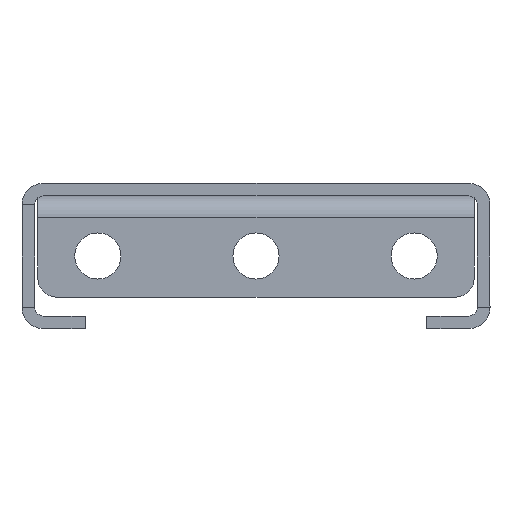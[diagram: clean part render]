
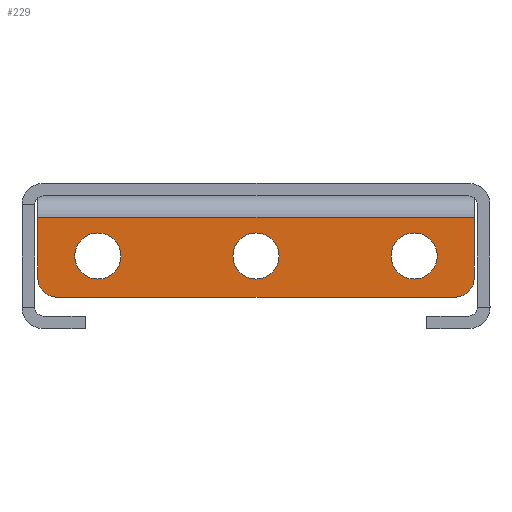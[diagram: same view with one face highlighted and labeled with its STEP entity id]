
A CAD part, left-side view. The second image highlights one B-rep face of the part: STEP entity #229.
In plain terms, the highlighted planar face has unit normal (-1, 0, 0).
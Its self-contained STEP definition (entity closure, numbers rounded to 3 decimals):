
#229=ADVANCED_FACE('',(#1632,#1634,#1636,#1638),#1640,.T.);
#1632=FACE_BOUND('',#1633,.T.);
#1633=EDGE_LOOP('',(#2697,#2698,#2699,#2700,#2701,#2702));
#1634=FACE_BOUND('',#1635,.T.);
#1635=EDGE_LOOP('',(#2703));
#1636=FACE_BOUND('',#1637,.T.);
#1637=EDGE_LOOP('',(#2704));
#1638=FACE_BOUND('',#1639,.T.);
#1639=EDGE_LOOP('',(#2705));
#1640=PLANE('',#1641);
#1641=AXIS2_PLACEMENT_3D('',#1642,#1643,#1644);
#1642=CARTESIAN_POINT('',(-68.5,0.,-2.));
#1643=DIRECTION('',(-1.,0.,0.));
#1644=DIRECTION('',(0.,0.,-1.));
#2697=ORIENTED_EDGE('',*,*,#3246,.F.);
#2698=ORIENTED_EDGE('',*,*,#3250,.T.);
#2699=ORIENTED_EDGE('',*,*,#3251,.F.);
#2700=ORIENTED_EDGE('',*,*,#3252,.T.);
#2701=ORIENTED_EDGE('',*,*,#3247,.F.);
#2702=ORIENTED_EDGE('',*,*,#3242,.T.);
#2703=ORIENTED_EDGE('',*,*,#3207,.F.);
#2704=ORIENTED_EDGE('',*,*,#3209,.F.);
#2705=ORIENTED_EDGE('',*,*,#3211,.F.);
#3207=EDGE_CURVE('',#3939,#3939,#3940,.T.);
#3209=EDGE_CURVE('',#3943,#3943,#3944,.T.);
#3211=EDGE_CURVE('',#3947,#3947,#3948,.T.);
#3242=EDGE_CURVE('',#3992,#3998,#4001,.T.);
#3246=EDGE_CURVE('',#4005,#3998,#4007,.T.);
#3247=EDGE_CURVE('',#3992,#4008,#4009,.T.);
#3250=EDGE_CURVE('',#4005,#4013,#4014,.T.);
#3251=EDGE_CURVE('',#4015,#4013,#4016,.T.);
#3252=EDGE_CURVE('',#4015,#4008,#4017,.T.);
#3939=VERTEX_POINT('',#5555);
#3940=CIRCLE('',#5556,3.65);
#3943=VERTEX_POINT('',#5565);
#3944=CIRCLE('',#5566,3.65);
#3947=VERTEX_POINT('',#5575);
#3948=CIRCLE('',#5576,3.65);
#3992=VERTEX_POINT('',#5681);
#3998=VERTEX_POINT('',#5698);
#4001=LINE('',#5706,#5707);
#4005=VERTEX_POINT('',#5716);
#4007=LINE('',#5720,#5721);
#4008=VERTEX_POINT('',#5723);
#4009=LINE('',#5724,#5725);
#4013=VERTEX_POINT('',#5734);
#4014=CIRCLE('',#5735,3.);
#4015=VERTEX_POINT('',#5739);
#4016=LINE('',#5740,#5741);
#4017=CIRCLE('',#5743,3.);
#5555=CARTESIAN_POINT('',(-68.5,25.,-13.15));
#5556=AXIS2_PLACEMENT_3D('',#5557,#5558,#5559);
#5557=CARTESIAN_POINT('',(-68.5,25.,-9.5));
#5558=DIRECTION('',(-1.,0.,0.));
#5559=DIRECTION('',(0.,0.,1.));
#5565=CARTESIAN_POINT('',(-68.5,0.,-13.15));
#5566=AXIS2_PLACEMENT_3D('',#5567,#5568,#5569);
#5567=CARTESIAN_POINT('',(-68.5,0.,-9.5));
#5568=DIRECTION('',(-1.,0.,0.));
#5569=DIRECTION('',(0.,0.,1.));
#5575=CARTESIAN_POINT('',(-68.5,-25.,-13.15));
#5576=AXIS2_PLACEMENT_3D('',#5577,#5578,#5579);
#5577=CARTESIAN_POINT('',(-68.5,-25.,-9.5));
#5578=DIRECTION('',(-1.,0.,0.));
#5579=DIRECTION('',(0.,0.,1.));
#5681=CARTESIAN_POINT('',(-68.5,-34.5,-3.4));
#5698=CARTESIAN_POINT('',(-68.5,34.5,-3.4));
#5706=CARTESIAN_POINT('',(-68.5,-34.5,-3.4));
#5707=VECTOR('',#5708,1.);
#5708=DIRECTION('',(0.,1.,0.));
#5716=CARTESIAN_POINT('',(-68.5,34.5,-13.));
#5720=CARTESIAN_POINT('',(-68.5,34.5,-13.));
#5721=VECTOR('',#5722,1.);
#5722=DIRECTION('',(0.,0.,1.));
#5723=CARTESIAN_POINT('',(-68.5,-34.5,-13.));
#5724=CARTESIAN_POINT('',(-68.5,-34.5,-3.4));
#5725=VECTOR('',#5726,1.);
#5726=DIRECTION('',(0.,0.,-1.));
#5734=CARTESIAN_POINT('',(-68.5,31.5,-16.));
#5735=AXIS2_PLACEMENT_3D('',#5736,#5737,#5738);
#5736=CARTESIAN_POINT('',(-68.5,31.5,-13.));
#5737=DIRECTION('',(-1.,0.,0.));
#5738=DIRECTION('',(0.,1.,0.));
#5739=CARTESIAN_POINT('',(-68.5,-31.5,-16.));
#5740=CARTESIAN_POINT('',(-68.5,-31.5,-16.));
#5741=VECTOR('',#5742,1.);
#5742=DIRECTION('',(0.,1.,0.));
#5743=AXIS2_PLACEMENT_3D('',#5744,#5745,#5746);
#5744=CARTESIAN_POINT('',(-68.5,-31.5,-13.));
#5745=DIRECTION('',(-1.,0.,0.));
#5746=DIRECTION('',(0.,0.,-1.));
